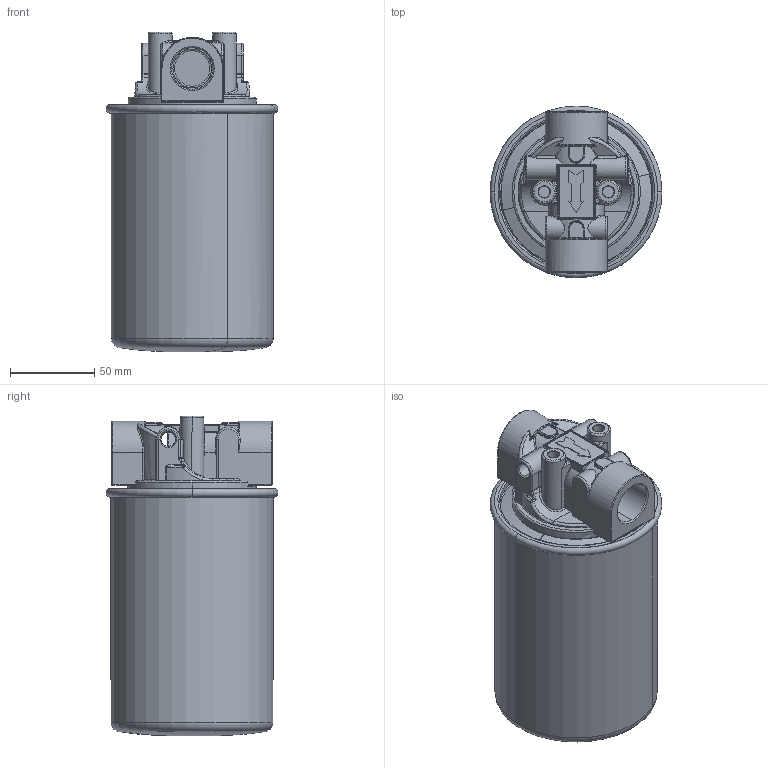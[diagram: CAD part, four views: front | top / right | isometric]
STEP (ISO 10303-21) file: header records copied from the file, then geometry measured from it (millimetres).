
FILE_DESCRIPTION (( 'STEP AP203' ), '1' );
FILE_NAME ('OMTI 05-H-N-R .STEP', '2016-02-26T07:07:28', ( '' ), ( '' ), 'SwSTEP 2.0', 'SolidWorks 2016', '' );
FILE_SCHEMA (( 'CONFIG_CONTROL_DESIGN' ));
Length unit declared in the file: millimetre
Products named in the file (1): OMTI 05-H-N-R 
Bounding box: 101.98 x 101.97 x 189.5 mm (x, y, z)
Volume: 126981.5 mm3; surface area: 158488.5 mm2
Topology: 1 solids, 1 shells, 694 faces, 1723 edges, 1001 vertices
Faces by surface type: bspline 224, cylinder 208, plane 118, torus 111, cone 25, sphere 8
Entity records: 48666 total; most frequent: CARTESIAN_POINT 34708, ORIENTED_EDGE 3352, DIRECTION 2126, EDGE_CURVE 1676, VERTEX_POINT 999, B_SPLINE_CURVE_WITH_KNOTS 833, AXIS2_PLACEMENT_3D 833, EDGE_LOOP 715
